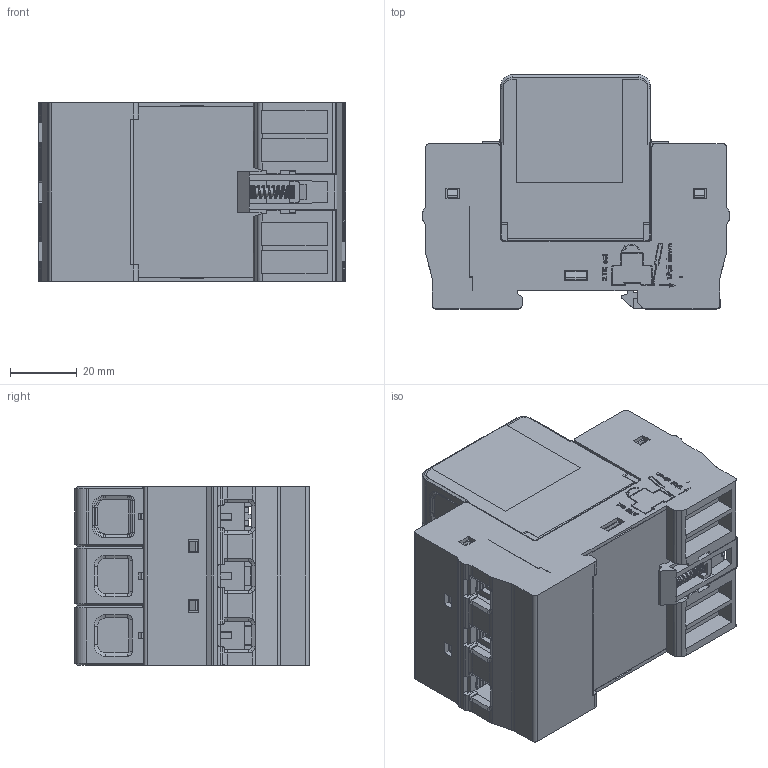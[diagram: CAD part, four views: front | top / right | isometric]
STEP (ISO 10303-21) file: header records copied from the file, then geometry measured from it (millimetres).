
FILE_DESCRIPTION((''),'2;1');
FILE_NAME('CDYN_3P_ASM_SW0001','2023-03-23T',('linxiao.guan'),(''),'PRO/ENGINEER BY PARAMETRIC TECHNOLOGY CORPORATION, 2015440','PRO/ENGINEER BY PARAMETRIC TECHNOLOGY CORPORATION, 2015440','');
FILE_SCHEMA(('CONFIG_CONTROL_DESIGN'));
Products named in the file (1): CDYN_3P_ASM_SW0001
Bounding box: 92 x 70.1 x 53.6 mm (x, y, z)
Volume: 89812.4 mm3; surface area: 105239.2 mm2
Topology: 2 solids, 3 shells, 3306 faces, 9580 edges, 6294 vertices
Faces by surface type: plane 2857, cylinder 303, cone 84, torus 26, bspline 20, sphere 16
Entity records: 114904 total; most frequent: CARTESIAN_POINT 27560, ORIENTED_EDGE 19144, DIRECTION 16614, EDGE_CURVE 9572, VECTOR 8382, LINE 8382, VERTEX_POINT 6294, AXIS2_PLACEMENT_3D 4116
